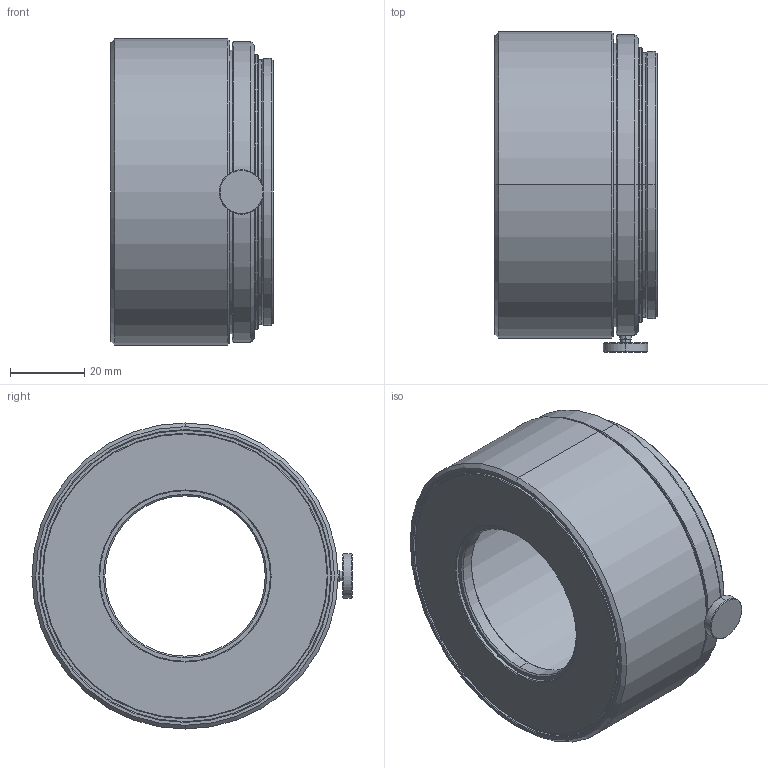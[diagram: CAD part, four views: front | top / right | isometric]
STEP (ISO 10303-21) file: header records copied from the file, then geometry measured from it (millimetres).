
FILE_DESCRIPTION (( 'STEP AP203' ), '1' );
FILE_NAME ('VS-FR20.STEP', '2017-03-16T00:03:19', ( 'miura_vst' ), ( '' ), 'SwSTEP 2.0', 'SolidWorks 2017', '' );
FILE_SCHEMA (( 'CONFIG_CONTROL_DESIGN' ));
Length unit declared in the file: millimetre
Products named in the file (1): VS-FR20
Bounding box: 43.7 x 86.25 x 82.5 mm (x, y, z)
Volume: 79202.1 mm3; surface area: 29695.7 mm2
Topology: 1 solids, 1 shells, 84 faces, 168 edges, 98 vertices
Faces by surface type: cone 40, cylinder 30, plane 14
Entity records: 2299 total; most frequent: DIRECTION 432, CARTESIAN_POINT 401, ORIENTED_EDGE 336, AXIS2_PLACEMENT_3D 181, EDGE_CURVE 168, VERTEX_POINT 98, EDGE_LOOP 98, CIRCLE 96
